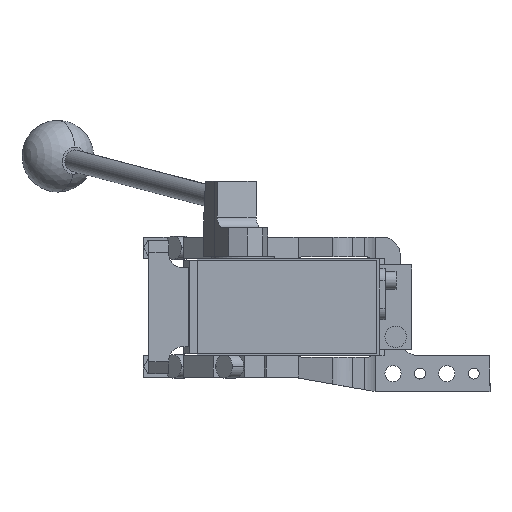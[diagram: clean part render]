
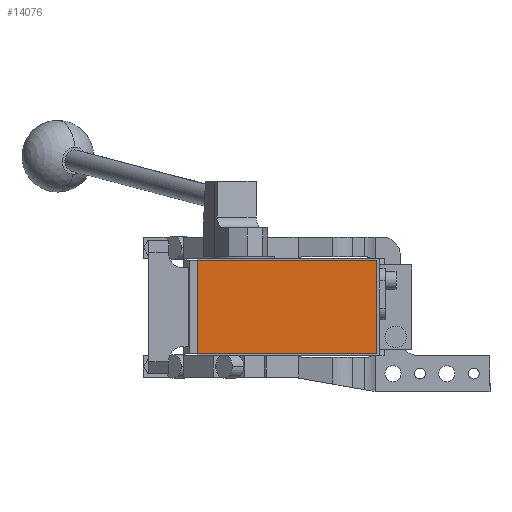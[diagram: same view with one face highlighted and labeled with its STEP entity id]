
A CAD part, front view. The second image highlights one B-rep face of the part: STEP entity #14076.
In plain terms, the highlighted planar face has unit normal (0, -1, 0).
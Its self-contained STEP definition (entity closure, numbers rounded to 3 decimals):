
#1934 = VECTOR ( 'NONE', #4361, 1000. ) ;
#2004 = CARTESIAN_POINT ( 'NONE',  ( -19., -286.5, 26. ) ) ;
#3097 = CARTESIAN_POINT ( 'NONE',  ( -19., -286.5, -26. ) ) ;
#3606 = LINE ( 'NONE', #4919, #14708 ) ;
#3703 = VERTEX_POINT ( 'NONE', #10391 ) ;
#4067 = EDGE_LOOP ( 'NONE', ( #13405, #11949, #13938, #11147 ) ) ;
#4155 = PLANE ( 'NONE',  #12354 ) ;
#4361 = DIRECTION ( 'NONE',  ( -1., 0., 0. ) ) ;
#4731 = VECTOR ( 'NONE', #9008, 1000. ) ;
#4858 = LINE ( 'NONE', #15100, #4731 ) ;
#4919 = CARTESIAN_POINT ( 'NONE',  ( -19., -286.5, 26. ) ) ;
#5472 = DIRECTION ( 'NONE',  ( 0., 0., -1. ) ) ;
#5518 = CARTESIAN_POINT ( 'NONE',  ( 81., -286.5, 26. ) ) ;
#5561 = LINE ( 'NONE', #3097, #9189 ) ;
#5713 = EDGE_CURVE ( 'NONE', #6550, #9985, #8260, .T. ) ;
#6325 = DIRECTION ( 'NONE',  ( 0., 0., -1. ) ) ;
#6550 = VERTEX_POINT ( 'NONE', #5518 ) ;
#6722 = DIRECTION ( 'NONE',  ( 0., -1., 0. ) ) ;
#6896 = DIRECTION ( 'NONE',  ( 1., 0., 0. ) ) ;
#8260 = LINE ( 'NONE', #9567, #1934 ) ;
#9008 = DIRECTION ( 'NONE',  ( 0., 0., 1. ) ) ;
#9189 = VECTOR ( 'NONE', #6896, 1000. ) ;
#9567 = CARTESIAN_POINT ( 'NONE',  ( -19., -286.5, 26. ) ) ;
#9985 = VERTEX_POINT ( 'NONE', #2004 ) ;
#10352 = EDGE_CURVE ( 'NONE', #15885, #6550, #4858, .T. ) ;
#10391 = CARTESIAN_POINT ( 'NONE',  ( -19., -286.5, -26. ) ) ;
#11147 = ORIENTED_EDGE ( 'NONE', *, *, #5713, .T. ) ;
#11578 = EDGE_CURVE ( 'NONE', #9985, #3703, #3606, .T. ) ;
#11675 = EDGE_CURVE ( 'NONE', #3703, #15885, #5561, .T. ) ;
#11949 = ORIENTED_EDGE ( 'NONE', *, *, #11675, .T. ) ;
#12354 = AXIS2_PLACEMENT_3D ( 'NONE', #13013, #6722, #5472 ) ;
#13013 = CARTESIAN_POINT ( 'NONE',  ( 0., -286.5, 0. ) ) ;
#13405 = ORIENTED_EDGE ( 'NONE', *, *, #11578, .T. ) ;
#13938 = ORIENTED_EDGE ( 'NONE', *, *, #10352, .T. ) ;
#14076 = ADVANCED_FACE ( 'NONE', ( #15457 ), #4155, .T. ) ;
#14708 = VECTOR ( 'NONE', #6325, 1000. ) ;
#15100 = CARTESIAN_POINT ( 'NONE',  ( 81., -286.5, 26. ) ) ;
#15457 = FACE_OUTER_BOUND ( 'NONE', #4067, .T. ) ;
#15727 = CARTESIAN_POINT ( 'NONE',  ( 81., -286.5, -26. ) ) ;
#15885 = VERTEX_POINT ( 'NONE', #15727 ) ;
